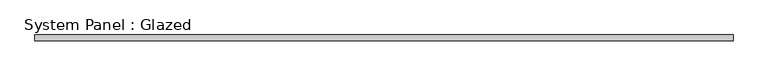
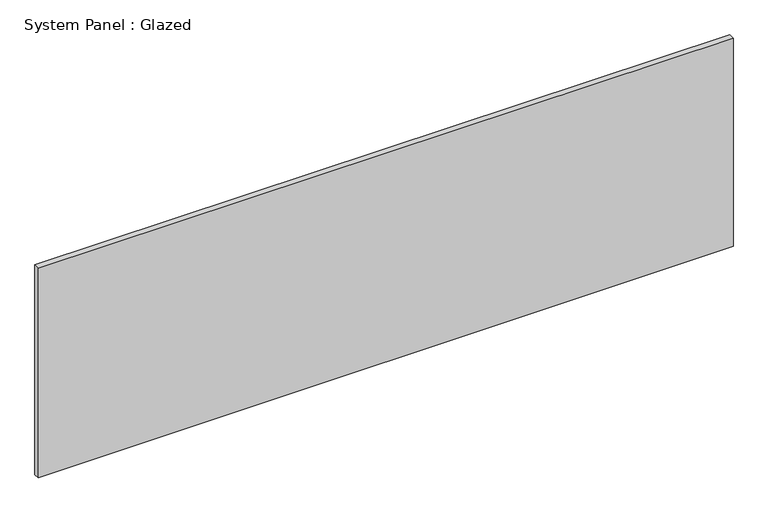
"""IFC4 building model written with IfcOpenShell, lengths in millimetres: plate geometry, System Panel : Glazed."""

from ifc_helpers import new_model, si_unit, frame, origin, place, context, project, spatial, polyline, outline, extrude, source, transform, mapped, element, save


def system_panel_glazed_2610bdc1(model_context):
    return source(origin(), model_context, "Body", "SweptSolid", [
        extrude(outline(polyline([(0.0, -1504.95), (6.3893926, 1504.95), (959.6618881, 1504.95), (959.6618881, -1504.95), (0.0, -1504.95)])), frame((0.0, 19.05, 0.0), z_axis=(0.0, 1.0, 0.0), x_axis=(0.0, 0.0, 1.0)), (0.0, 0.0, 1.0), 25.4),
    ])


if __name__ == "__main__":
    model = new_model("IFC4")
    model_context = context("Model", 3, world=origin())
    ifc_project = project(units=[si_unit("LENGTHUNIT", "METRE", prefix="MILLI")], contexts=[model_context])
    site = spatial("IfcSite", under=ifc_project)
    building = spatial("IfcBuilding", under=site)
    placement = place(None, origin())
    system_panel_glazed_shape = system_panel_glazed_2610bdc1(model_context)
    element("IfcPlate", 1, ObjectType="System Panel : Glazed", at=placement, inside=building, context=model_context, shape_type="MappedRepresentation", body=[
        mapped(system_panel_glazed_shape, transform((0.0, 0.0, 0.0), x_axis=(1.0, 0.0, 0.0), y_axis=(0.0, 1.0, 0.0), z_axis=(0.0, 0.0, 1.0))),
    ])
    save(model, "model.ifc")
